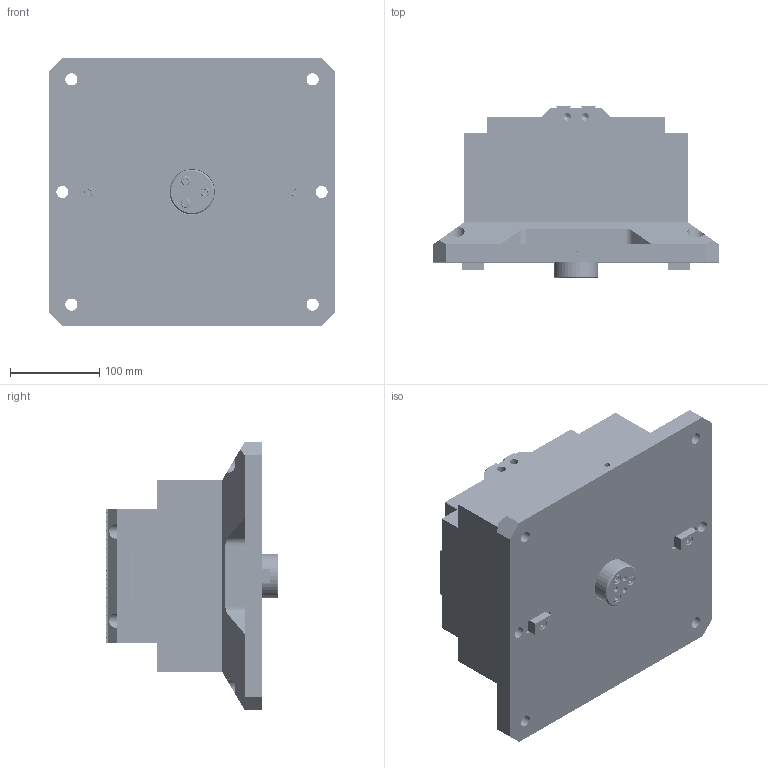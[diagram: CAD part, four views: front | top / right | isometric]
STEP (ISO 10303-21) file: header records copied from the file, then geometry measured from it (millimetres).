
FILE_DESCRIPTION (( 'STEP AP203' ), '1' );
FILE_NAME ('05-0409 AIR VISE SELF-CENTER 150MM UMC_STEP__9_28_2023.step', '2023-09-28T16:36:07', ( '' ), ( '' ), 'SwSTEP 2.0', 'SolidWorks 2022', '' );
FILE_SCHEMA (( 'CONFIG_CONTROL_DESIGN' ));
Length unit declared in the file: millimetre
Products named in the file (12): 10000193400; 05-0409 AIR VISE SELF-CENTER 150MM UMC_STEP__9_28_2023; 10000155647_BOM Item; 10000193399; 10000173332_91290A318; 40-0230_40-0230; 10000193401; 58-3105; 10000183889; 40-1626_40-1626; 10000183890; 57-2029
Assembly tree (26 placements, depth 3):
  05-0409 AIR VISE SELF-CENTER 150MM UMC_STEP__9_28_2023
    10000193401
    10000193400
    10000183889
      10000183890  x2
    40-0230_40-0230  x8
    10000155647_BOM Item  x2
    10000173332_91290A318  x2
    58-3105
    10000193399
    40-1626_40-1626  x3
    57-2029  x3
    10000183890
Bounding box: 320 x 193.28 x 300 mm (x, y, z)
Volume: 9404331.4 mm3; surface area: 665162.8 mm2
Topology: 25 solids, 25 shells, 6638 faces, 18869 edges, 12377 vertices
Faces by surface type: plane 4389, cylinder 1324, bspline 464, cone 449, torus 12
Entity records: 127830 total; most frequent: CARTESIAN_POINT 49489, ORIENTED_EDGE 17484, DIRECTION 13407, EDGE_CURVE 8742, VECTOR 6541, LINE 6541, VERTEX_POINT 5762, AXIS2_PLACEMENT_3D 3433
